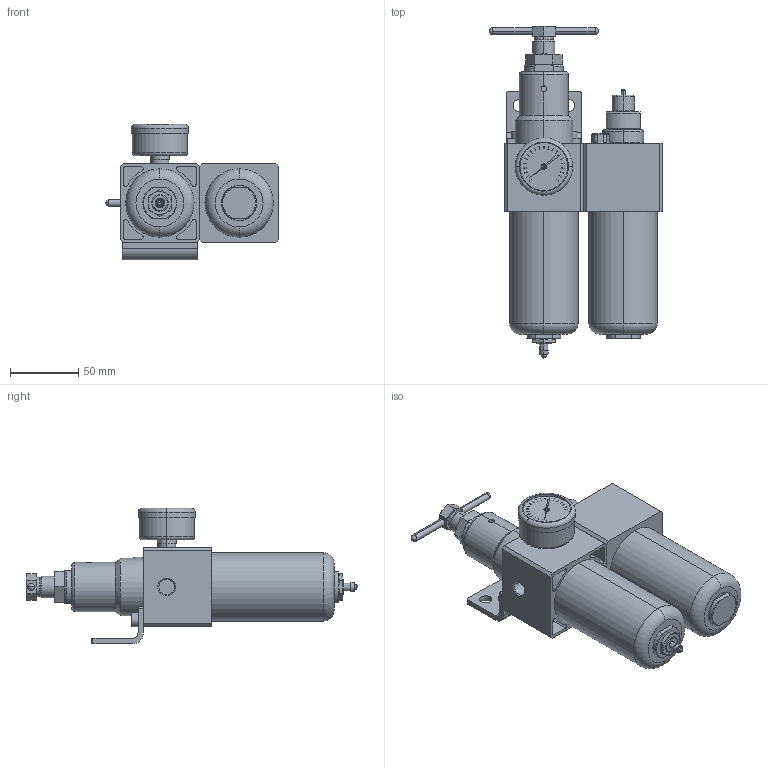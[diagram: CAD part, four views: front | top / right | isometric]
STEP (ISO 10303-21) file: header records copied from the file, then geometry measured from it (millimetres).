
FILE_DESCRIPTION (( 'STEP AP203' ), '1' );
FILE_NAME ('FRL200S-N02.STEP', '2022-04-19T10:17:06', ( '' ), ( '' ), 'SwSTEP 2.0', 'SolidWorks 2019', '' );
FILE_SCHEMA (( 'CONFIG_CONTROL_DESIGN' ));
Length unit declared in the file: millimetre
Products named in the file (1): FRL200S-N02
Bounding box: 127 x 243 x 99.1 mm (x, y, z)
Volume: 798499 mm3; surface area: 101810.4 mm2
Topology: 6 solids, 6 shells, 540 faces, 1252 edges, 796 vertices
Faces by surface type: plane 213, cylinder 191, cone 96, torus 34, sphere 6
Entity records: 16559 total; most frequent: CARTESIAN_POINT 3900, DIRECTION 2772, ORIENTED_EDGE 2496, EDGE_CURVE 1248, AXIS2_PLACEMENT_3D 1104, VERTEX_POINT 796, EDGE_LOOP 630, LINE 564
